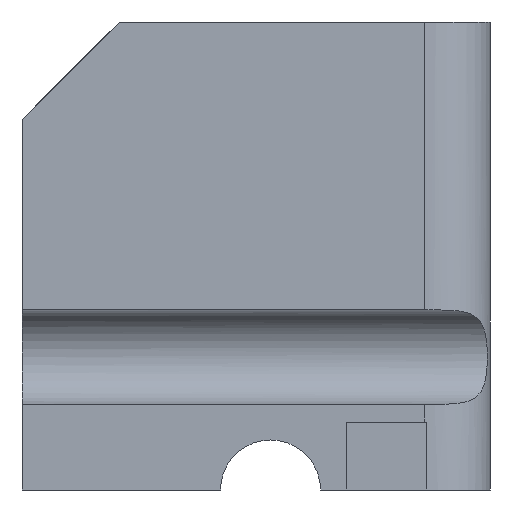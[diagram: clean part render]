
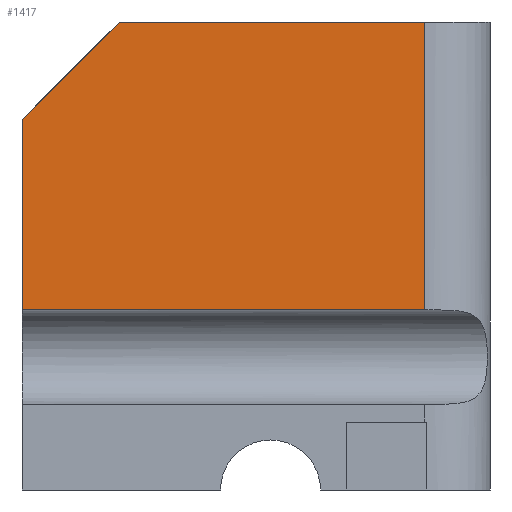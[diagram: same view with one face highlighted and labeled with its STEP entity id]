
A CAD part, left-side view. The second image highlights one B-rep face of the part: STEP entity #1417.
In plain terms, the highlighted planar face has unit normal (-1, 0, 0).
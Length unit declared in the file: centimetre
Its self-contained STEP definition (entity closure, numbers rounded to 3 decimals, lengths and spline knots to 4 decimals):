
#24 = CARTESIAN_POINT ( 'NONE',  ( 0., 792.4623, 1000. ) ) ;
#72 = DIRECTION ( 'NONE',  ( 0., 0., -1. ) ) ;
#164 = CARTESIAN_POINT ( 'NONE',  ( 0., 792.4623, 1000. ) ) ;
#168 = EDGE_CURVE ( 'NONE', #430, #186, #362, .T. ) ;
#186 = VERTEX_POINT ( 'NONE', #693 ) ;
#234 = VERTEX_POINT ( 'NONE', #1008 ) ;
#314 = PLANE ( 'NONE',  #323 ) ;
#323 = AXIS2_PLACEMENT_3D ( 'NONE', #677, #805, #422 ) ;
#362 = LINE ( 'NONE', #849, #437 ) ;
#407 = ORIENTED_EDGE ( 'NONE', *, *, #1442, .T. ) ;
#422 = DIRECTION ( 'NONE',  ( 0., 0., -1. ) ) ;
#430 = VERTEX_POINT ( 'NONE', #809 ) ;
#437 = VECTOR ( 'NONE', #604, 100. ) ;
#442 = EDGE_CURVE ( 'NONE', #186, #234, #699, .T. ) ;
#447 = VECTOR ( 'NONE', #72, 100. ) ;
#485 = ORIENTED_EDGE ( 'NONE', *, *, #776, .F. ) ;
#581 = CARTESIAN_POINT ( 'NONE',  ( 0., 140.4761, 1000. ) ) ;
#604 = DIRECTION ( 'NONE',  ( 0., -1., 0. ) ) ;
#620 = VERTEX_POINT ( 'NONE', #1548 ) ;
#677 = CARTESIAN_POINT ( 'NONE',  ( 0., 1000., 1000. ) ) ;
#693 = CARTESIAN_POINT ( 'NONE',  ( 0., 140.4761, 384.747 ) ) ;
#699 = LINE ( 'NONE', #581, #1118 ) ;
#776 = EDGE_CURVE ( 'NONE', #1332, #234, #1016, .T. ) ;
#805 = DIRECTION ( 'NONE',  ( 1., 0., 0. ) ) ;
#809 = CARTESIAN_POINT ( 'NONE',  ( 0., 1000., 384.747 ) ) ;
#849 = CARTESIAN_POINT ( 'NONE',  ( 0., 1000., 384.747 ) ) ;
#877 = LINE ( 'NONE', #164, #1352 ) ;
#881 = DIRECTION ( 'NONE',  ( 0., -1., 0. ) ) ;
#992 = DIRECTION ( 'NONE',  ( 0., 0.707, -0.707 ) ) ;
#1008 = CARTESIAN_POINT ( 'NONE',  ( 0., 140.4761, 1000. ) ) ;
#1016 = LINE ( 'NONE', #1351, #1439 ) ;
#1029 = LINE ( 'NONE', #1499, #447 ) ;
#1051 = ORIENTED_EDGE ( 'NONE', *, *, #442, .T. ) ;
#1073 = DIRECTION ( 'NONE',  ( 0., 0., 1. ) ) ;
#1105 = ORIENTED_EDGE ( 'NONE', *, *, #168, .T. ) ;
#1118 = VECTOR ( 'NONE', #1073, 100. ) ;
#1260 = EDGE_CURVE ( 'NONE', #1332, #620, #877, .T. ) ;
#1291 = EDGE_LOOP ( 'NONE', ( #407, #1105, #1051, #485, #1400 ) ) ;
#1332 = VERTEX_POINT ( 'NONE', #24 ) ;
#1351 = CARTESIAN_POINT ( 'NONE',  ( 0., 1000., 1000. ) ) ;
#1352 = VECTOR ( 'NONE', #992, 100. ) ;
#1400 = ORIENTED_EDGE ( 'NONE', *, *, #1260, .T. ) ;
#1410 = FACE_OUTER_BOUND ( 'NONE', #1291, .T. ) ;
#1417 = ADVANCED_FACE ( 'NONE', ( #1410 ), #314, .F. ) ;
#1439 = VECTOR ( 'NONE', #881, 100. ) ;
#1442 = EDGE_CURVE ( 'NONE', #620, #430, #1029, .T. ) ;
#1499 = CARTESIAN_POINT ( 'NONE',  ( 0., 1000., 1000. ) ) ;
#1548 = CARTESIAN_POINT ( 'NONE',  ( 0., 1000., 792.4623 ) ) ;
